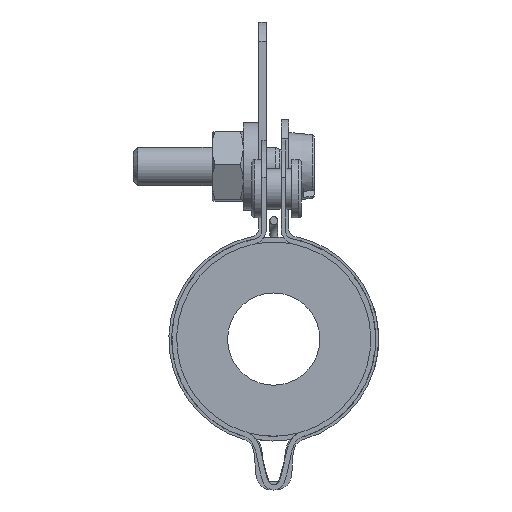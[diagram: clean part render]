
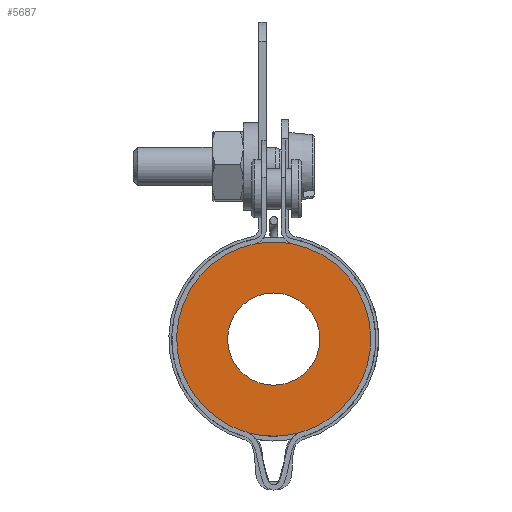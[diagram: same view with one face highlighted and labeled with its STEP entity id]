
A CAD part, front view. The second image highlights one B-rep face of the part: STEP entity #5687.
In plain terms, the highlighted planar face has unit normal (0, -1, 0).
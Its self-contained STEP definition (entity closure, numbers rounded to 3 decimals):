
#68=B_SPLINE_CURVE_WITH_KNOTS($,3,(#9585,#9586,#9587,#9588),
 .UNSPECIFIED.,.F.,.F.,(4,4),(0.,0.027),.UNSPECIFIED.);
#69=B_SPLINE_CURVE_WITH_KNOTS($,3,(#9592,#9593,#9594,#9595),
 .UNSPECIFIED.,.F.,.F.,(4,4),(0.125,0.151),
 .UNSPECIFIED.);
#386=LINE($,#9597,#760);
#387=LINE($,#9604,#761);
#760=VECTOR($,#7656,0.151);
#761=VECTOR($,#7663,0.151);
#1065=FACE_BOUND($,#1711,.T.);
#1328=FACE_OUTER_BOUND($,#1710,.T.);
#1710=EDGE_LOOP($,(#4539,#4540,#4541,#4542,#4543,#4544,#4545,#4546));
#1711=EDGE_LOOP($,(#4547));
#2082=CIRCLE($,#6257,4.75);
#2083=CIRCLE($,#6260,10.);
#2084=CIRCLE($,#6261,10.);
#2085=CIRCLE($,#6262,10.);
#2086=CIRCLE($,#6263,10.);
#2555=VERTEX_POINT($,#9579);
#2556=VERTEX_POINT($,#9583);
#2557=VERTEX_POINT($,#9584);
#2558=VERTEX_POINT($,#9589);
#2559=VERTEX_POINT($,#9591);
#2560=VERTEX_POINT($,#9596);
#2561=VERTEX_POINT($,#9598);
#2562=VERTEX_POINT($,#9600);
#2563=VERTEX_POINT($,#9602);
#3246=EDGE_CURVE($,#2555,#2555,#2082,.T.);
#3247=EDGE_CURVE($,#2556,#2557,#68,.T.);
#3248=EDGE_CURVE($,#2557,#2558,#2083,.T.);
#3249=EDGE_CURVE($,#2558,#2559,#69,.T.);
#3250=EDGE_CURVE($,#2559,#2560,#386,.T.);
#3251=EDGE_CURVE($,#2560,#2561,#2084,.T.);
#3252=EDGE_CURVE($,#2561,#2562,#2085,.T.);
#3253=EDGE_CURVE($,#2562,#2563,#2086,.T.);
#3254=EDGE_CURVE($,#2563,#2556,#387,.T.);
#4539=ORIENTED_EDGE($,*,*,#3247,.T.);
#4540=ORIENTED_EDGE($,*,*,#3248,.T.);
#4541=ORIENTED_EDGE($,*,*,#3249,.T.);
#4542=ORIENTED_EDGE($,*,*,#3250,.T.);
#4543=ORIENTED_EDGE($,*,*,#3251,.T.);
#4544=ORIENTED_EDGE($,*,*,#3252,.T.);
#4545=ORIENTED_EDGE($,*,*,#3253,.T.);
#4546=ORIENTED_EDGE($,*,*,#3254,.T.);
#4547=ORIENTED_EDGE($,*,*,#3246,.T.);
#5101=PLANE($,#6259);
#5687=ADVANCED_FACE($,(#1328,#1065),#5101,.T.);
#6257=AXIS2_PLACEMENT_3D($,#9580,#7648,#7649);
#6259=AXIS2_PLACEMENT_3D($,#9582,#7652,#7653);
#6260=AXIS2_PLACEMENT_3D($,#9590,#7654,#7655);
#6261=AXIS2_PLACEMENT_3D($,#9599,#7657,#7658);
#6262=AXIS2_PLACEMENT_3D($,#9601,#7659,#7660);
#6263=AXIS2_PLACEMENT_3D($,#9603,#7661,#7662);
#7648=DIRECTION('center_axis',(0.,1.,0.));
#7649=DIRECTION('ref_axis',(1.,0.,0.));
#7652=DIRECTION('center_axis',(0.,-1.,0.));
#7653=DIRECTION('ref_axis',(0.,0.,-1.));
#7654=DIRECTION('center_axis',(0.,-1.,0.));
#7655=DIRECTION('ref_axis',(1.,0.,0.));
#7656=DIRECTION($,(0.99,0.,0.144));
#7657=DIRECTION('center_axis',(0.,-1.,0.));
#7658=DIRECTION('ref_axis',(1.,0.,0.));
#7659=DIRECTION('center_axis',(0.,-1.,0.));
#7660=DIRECTION('ref_axis',(1.,0.,0.));
#7661=DIRECTION('center_axis',(0.,-1.,0.));
#7662=DIRECTION('ref_axis',(1.,0.,0.));
#7663=DIRECTION($,(0.99,0.,-0.144));
#9579=CARTESIAN_POINT('',(-4.75,0.,0.));
#9580=CARTESIAN_POINT('Origin',(0.,0.,0.));
#9582=CARTESIAN_POINT('Origin',(0.,0.,0.));
#9583=CARTESIAN_POINT('',(-2.851,0.,-9.561));
#9584=CARTESIAN_POINT('',(-2.604,0.,-9.655));
#9585=CARTESIAN_POINT('Ctrl Pts',(-2.851,0.,-9.561));
#9586=CARTESIAN_POINT('Ctrl Pts',(-2.765,0.,-9.587));
#9587=CARTESIAN_POINT('Ctrl Pts',(-2.682,0.,
-9.618));
#9588=CARTESIAN_POINT('Ctrl Pts',(-2.604,0.,-9.655));
#9589=CARTESIAN_POINT('',(2.604,0.,-9.655));
#9590=CARTESIAN_POINT('Origin',(0.,0.,0.));
#9591=CARTESIAN_POINT('',(2.851,0.,-9.561));
#9592=CARTESIAN_POINT('Ctrl Pts',(2.604,0.,-9.655));
#9593=CARTESIAN_POINT('Ctrl Pts',(2.682,0.,
-9.618));
#9594=CARTESIAN_POINT('Ctrl Pts',(2.765,0.,-9.587));
#9595=CARTESIAN_POINT('Ctrl Pts',(2.851,0.,-9.561));
#9596=CARTESIAN_POINT('',(3.,0.,-9.539));
#9597=CARTESIAN_POINT($,(2.138,0.,-9.665));
#9598=CARTESIAN_POINT('',(2.026,0.,9.793));
#9599=CARTESIAN_POINT('Origin',(0.,0.,0.));
#9600=CARTESIAN_POINT('',(-2.026,0.,9.793));
#9601=CARTESIAN_POINT('Origin',(0.,0.,0.));
#9602=CARTESIAN_POINT('',(-3.,0.,-9.539));
#9603=CARTESIAN_POINT('Origin',(0.,0.,0.));
#9604=CARTESIAN_POINT($,(-2.138,0.,-9.665));
